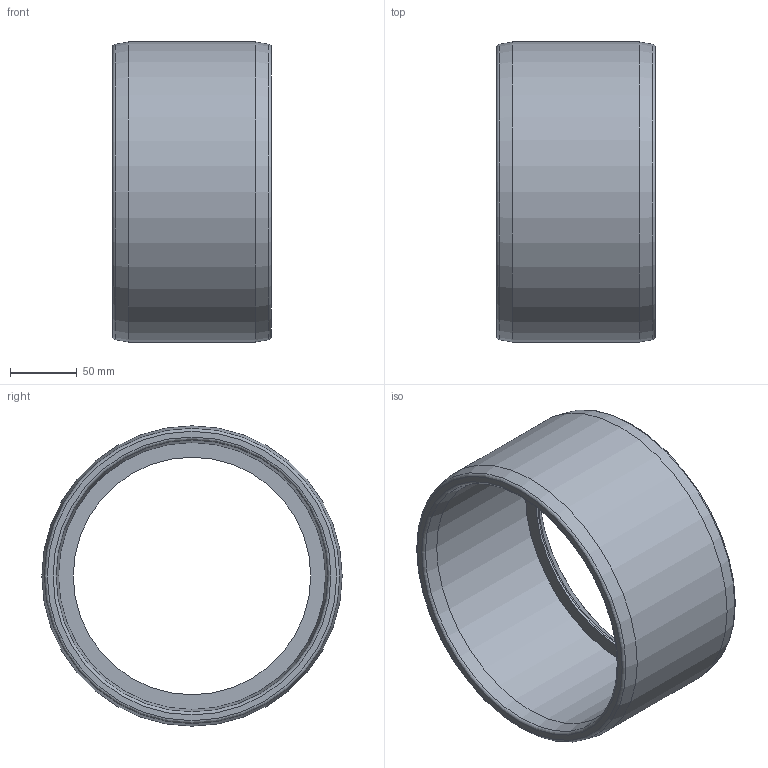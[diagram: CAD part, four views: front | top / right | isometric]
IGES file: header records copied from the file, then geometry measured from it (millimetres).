
Global section: file name: 050900225200.ipt; native system: Autodesk Inventor 2015; preprocessor: unknown; author: KIM; date: 20171207.165204; units: millimetre
Bounding box: 119 x 225 x 225 mm (x, y, z)
Volume: 1020841.5 mm3; surface area: 179044.7 mm2
Topology: 1 solids, 1 shells, 15 faces, 43 edges, 31 vertices
Faces by surface type: revolution 9, plane 3, cone 2, cylinder 1
Full cylindrical faces by diameter (mm): 225 x1
